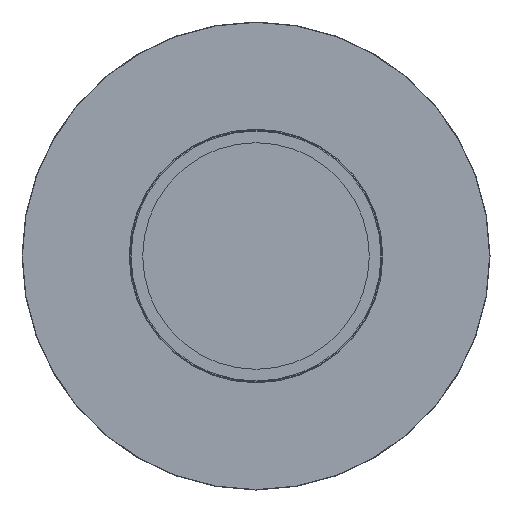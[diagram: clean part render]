
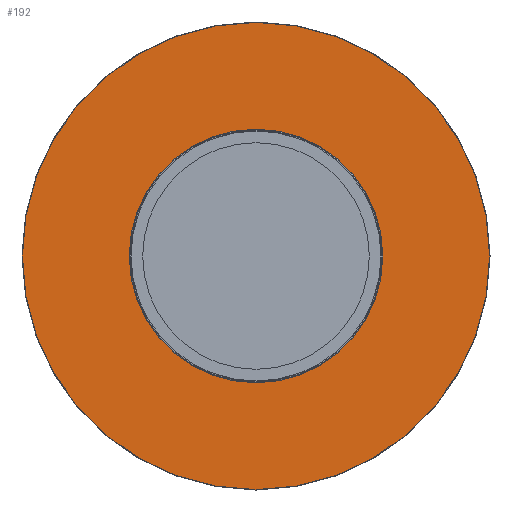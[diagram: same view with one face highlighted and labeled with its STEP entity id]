
A CAD part, front view. The second image highlights one B-rep face of the part: STEP entity #192.
In plain terms, the highlighted planar face has unit normal (0, -1, 0).
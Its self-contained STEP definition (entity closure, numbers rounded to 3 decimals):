
#165=CARTESIAN_POINT('',(0.,722.0,0.));
#166=DIRECTION('',(0.0,-1.0,0.0));
#167=DIRECTION('',(1.0,0.0,0.0));
#168=AXIS2_PLACEMENT_3D('',#165,#166,#167);
#169=PLANE('',#168);
#170=CARTESIAN_POINT('',(-599.,722.0,0.));
#171=VERTEX_POINT('',#170);
#172=CARTESIAN_POINT('',(0.,722.0,0.));
#173=DIRECTION('',(0.0,1.0,0.0));
#174=DIRECTION('',(1.0,0.0,0.0));
#175=AXIS2_PLACEMENT_3D('',#172,#173,#174);
#176=CIRCLE('',#175,599.0);
#177=EDGE_CURVE('',#171,#171,#176,.T.);
#178=ORIENTED_EDGE('',*,*,#177,.F.);
#179=EDGE_LOOP('',(#178));
#180=FACE_OUTER_BOUND('',#179,.T.);
#181=CARTESIAN_POINT('',(249.,722.0,0.));
#182=VERTEX_POINT('',#181);
#183=CARTESIAN_POINT('',(0.,722.0,0.));
#184=DIRECTION('',(0.0,-1.0,0.0));
#185=DIRECTION('',(-1.0,0.0,0.0));
#186=AXIS2_PLACEMENT_3D('',#183,#184,#185);
#187=CIRCLE('',#186,249.0);
#188=EDGE_CURVE('',#182,#182,#187,.T.);
#189=ORIENTED_EDGE('',*,*,#188,.F.);
#190=EDGE_LOOP('',(#189));
#191=FACE_BOUND('',#190,.T.);
#192=ADVANCED_FACE('',(#180,#191),#169,.T.);
